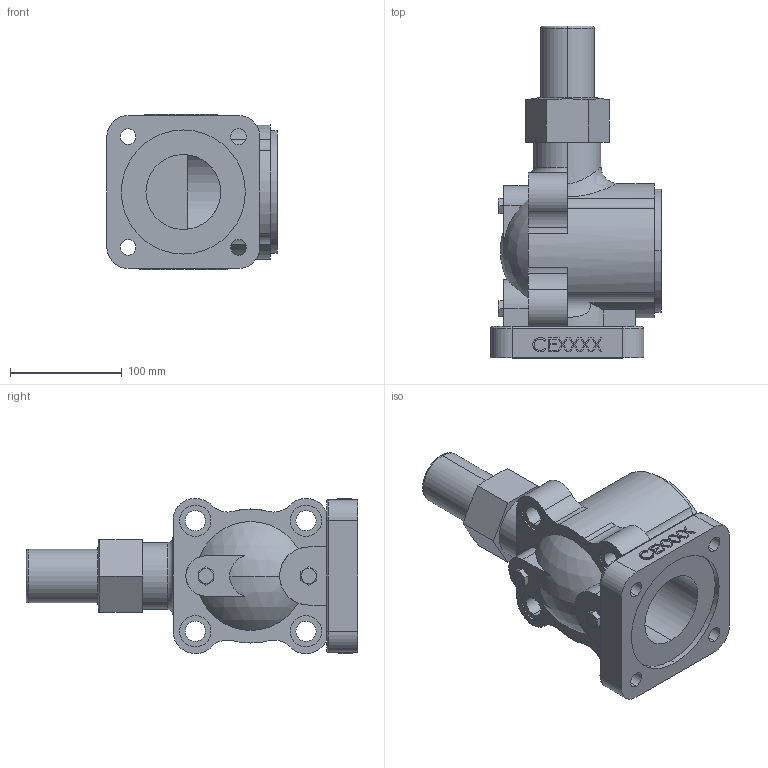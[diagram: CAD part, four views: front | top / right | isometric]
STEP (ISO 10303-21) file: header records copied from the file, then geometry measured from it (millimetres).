
FILE_DESCRIPTION (( 'STEP AP203' ), '1' );
FILE_NAME ('2吋半關斷閥.STEP', '2014-04-17T01:10:28', ( 'jameswang' ), ( '' ), 'SwSTEP 2.0', 'SolidWorks 2013', '' );
FILE_SCHEMA (( 'CONFIG_CONTROL_DESIGN' ));
Length unit declared in the file: centimetre
Products named in the file (3): 3188-8200; 2吋半關斷閥; 4305-911A
Assembly tree (3 placements, depth 2):
  2吋半關斷閥
    4305-911A  x2
    3188-8200
Bounding box: 152.5 x 297 x 139 mm (x, y, z)
Volume: 1768896.5 mm3; surface area: 197203.7 mm2
Topology: 3 solids, 3 shells, 348 faces, 922 edges, 604 vertices
Faces by surface type: plane 219, cylinder 78, bspline 24, cone 18, torus 7, sphere 2
Entity records: 12676 total; most frequent: CARTESIAN_POINT 4033, ORIENTED_EDGE 1772, DIRECTION 1638, EDGE_CURVE 886, LINE 624, VECTOR 624, VERTEX_POINT 584, AXIS2_PLACEMENT_3D 507
